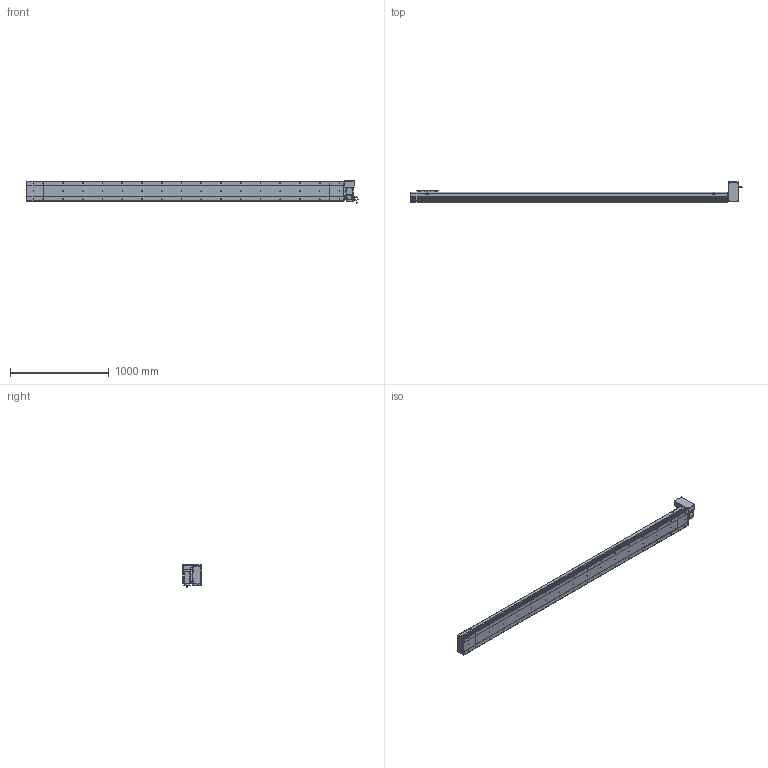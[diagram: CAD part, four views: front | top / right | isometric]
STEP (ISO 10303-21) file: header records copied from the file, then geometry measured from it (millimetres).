
FILE_DESCRIPTION (( 'STEP AP214' ), '1' );
FILE_NAME ('D20 CBH LT S2900.STEP', '2010-06-30T10:35:35', ( 'Conseil Régional Haute-Normandie' ), ( 'Conseil Régional Haute-Normandie' ), 'SwSTEP 2.0', 'SolidWorks 2010', '' );
FILE_SCHEMA (( 'AUTOMOTIVE_DESIGN' ));
Length unit declared in the file: millimetre
Products named in the file (31): avant 90BLDC125A-640; vis M5 L47_Default; Corp D20 S2900_Default; Glissiere_Default; codeur 90BLDC125-640; Chariot D20_Default; Support moteur LT_Default; Moteur motionking 90BLDC125A-640; Cache Support Moteur LT_Default; ecrou_Default; Rondelle Cache D20 LT_Default; corps 90BLDC125A-640; vis M5 L30_Default; Corp S2900_Default; Conecteur2_Default; Support Chariot D20_Default; Conecteur_Default; Couvercle_Default; Tail D20+100_Default; Plaque de Bout Tail D20_Default; vis M5 L15_Default; Couvercle S2900_Default; Corp Tail D20+100_Default; Plaque De Serrage D20_Default; D20 CBH LT S2900; Plaque de Bout Head D20 LT_Default; Couvercle LT_Default; Plaque De Serrage D20 LT_Default; Corp Tail D20 LT_Default; Head LT_Default
Assembly tree (66 placements, depth 4):
  D20 CBH LT S2900
    Corp D20 S2900_Default
      Couvercle S2900_Default
      Corp S2900_Default
    Tail D20+100_Default
      vis M5 L15_Default  x6
      Plaque De Serrage D20_Default
      Corp Tail D20+100_Default
      Couvercle_Default
      Plaque de Bout Tail D20_Default
    Head LT_Default
      Rondelle Cache D20 LT_Default  x3
      vis M5 L30_Default  x4
      vis M5 L15_Default  x12
      vis M5 L47_Default  x4
      Plaque de Bout Head D20 LT_Default
      ecrou_Default  x4
      Couvercle LT_Default
      Plaque De Serrage D20 LT_Default
      Cache Support Moteur LT_Default
      Corp Tail D20 LT_Default
      Moteur motionking 90BLDC125A-640
        codeur 90BLDC125-640
        corps 90BLDC125A-640
        avant 90BLDC125A-640
        Conecteur_Default
        Conecteur2_Default
      Support moteur LT_Default
    Chariot D20_Default
      vis M5 L15_Default  x8
      Support Chariot D20_Default
      Glissiere_Default
      Chariot D20_Default
Bounding box: 3363.45 x 202.5 x 229.7 mm (x, y, z)
Volume: 22532446.6 mm3; surface area: 4353110.6 mm2
Topology: 103 solids, 103 shells, 3831 faces, 9584 edges, 6232 vertices
Faces by surface type: plane 2116, bspline 806, cylinder 746, torus 91, cone 68, sphere 4
Entity records: 162238 total; most frequent: CARTESIAN_POINT 83491, ORIENTED_EDGE 15636, DIRECTION 11928, EDGE_CURVE 7818, VERTEX_POINT 5176, LINE 4994, VECTOR 4994, AXIS2_PLACEMENT_3D 3467
